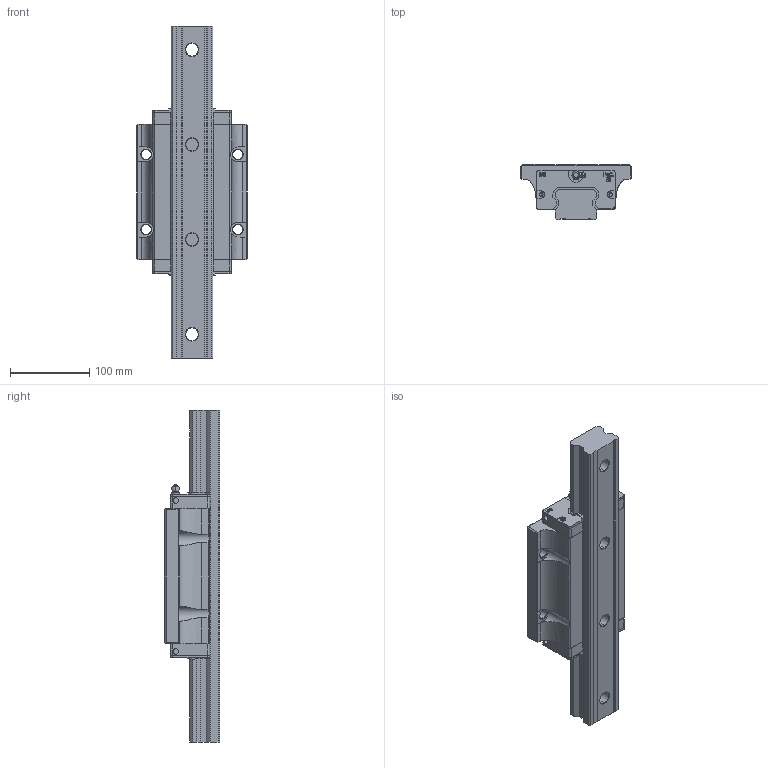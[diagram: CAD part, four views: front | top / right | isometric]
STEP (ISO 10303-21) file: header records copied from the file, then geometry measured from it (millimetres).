
FILE_DESCRIPTION (( 'STEP AP203' ), '1' );
FILE_NAME ('BGCH55FE.STEP', '2025-10-20T07:37:33', ( '' ), ( '' ), 'SwSTEP 2.0', 'SolidWorks 2020', '' );
FILE_SCHEMA (( 'CONFIG_CONTROL_DESIGN' ));
Length unit declared in the file: millimetre
Products named in the file (5): BG55端防塵; BGXH55FE; BGCH55FE; BGR55-L420; NGX04
Assembly tree (5 placements, depth 2):
  BGCH55FE
    BGR55-L420
    BGXH55FE
    BG55端防塵  x2
    NGX04
Bounding box: 139.95 x 70 x 420 mm (x, y, z)
Volume: 1764139.6 mm3; surface area: 222931.2 mm2
Topology: 7 solids, 7 shells, 907 faces, 2486 edges, 1640 vertices
Faces by surface type: plane 670, cylinder 138, cone 69, bspline 26, torus 4
Entity records: 20841 total; most frequent: CARTESIAN_POINT 4558, ORIENTED_EDGE 3348, DIRECTION 3126, EDGE_CURVE 1674, LINE 1254, VECTOR 1254, VERTEX_POINT 1100, AXIS2_PLACEMENT_3D 936
